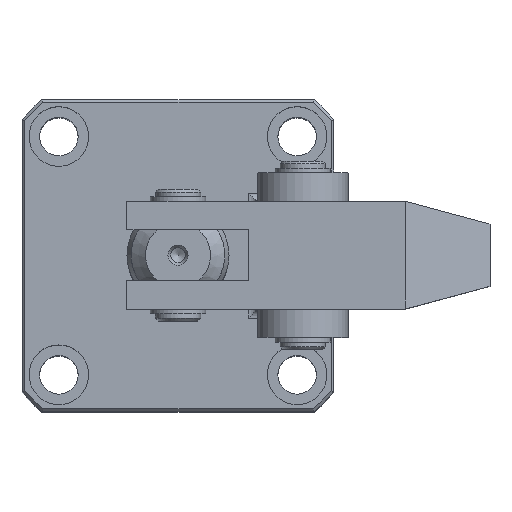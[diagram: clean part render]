
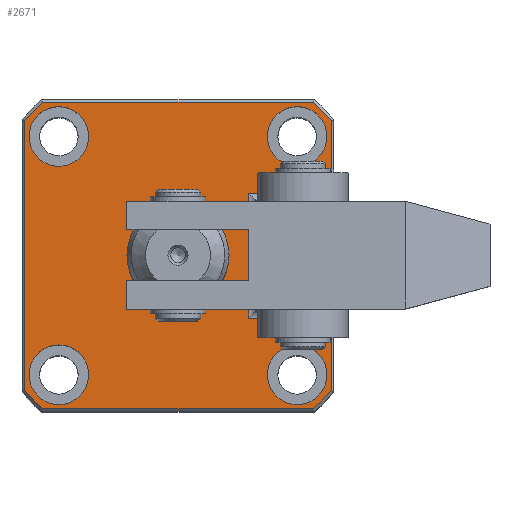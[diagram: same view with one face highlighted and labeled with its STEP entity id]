
A CAD part, top view. The second image highlights one B-rep face of the part: STEP entity #2671.
In plain terms, the highlighted planar face has unit normal (0, 0, 1).
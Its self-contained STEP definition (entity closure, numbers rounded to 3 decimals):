
#146=CIRCLE('',#2944,5.25);
#147=CIRCLE('',#2945,5.25);
#148=CIRCLE('',#2946,5.25);
#149=CIRCLE('',#2947,5.25);
#150=CIRCLE('',#2948,9.);
#151=CIRCLE('',#2949,36.);
#152=CIRCLE('',#2950,36.);
#153=CIRCLE('',#2951,36.);
#154=CIRCLE('',#2952,36.);
#285=PLANE('',#2943);
#387=LINE('',#4199,#555);
#388=LINE('',#4202,#556);
#389=LINE('',#4204,#557);
#390=LINE('',#4208,#558);
#391=LINE('',#4212,#559);
#392=LINE('',#4216,#560);
#393=LINE('',#4220,#561);
#394=LINE('',#4222,#562);
#555=VECTOR('',#3324,1000.);
#556=VECTOR('',#3325,1000.);
#557=VECTOR('',#3326,1000.);
#558=VECTOR('',#3329,1000.);
#559=VECTOR('',#3332,1000.);
#560=VECTOR('',#3335,1000.);
#561=VECTOR('',#3338,1000.);
#562=VECTOR('',#3339,1000.);
#728=ORIENTED_EDGE('',*,*,#1415,.F.);
#729=ORIENTED_EDGE('',*,*,#1416,.F.);
#730=ORIENTED_EDGE('',*,*,#1417,.F.);
#731=ORIENTED_EDGE('',*,*,#1418,.F.);
#732=ORIENTED_EDGE('',*,*,#1419,.T.);
#733=ORIENTED_EDGE('',*,*,#1420,.T.);
#734=ORIENTED_EDGE('',*,*,#1421,.T.);
#735=ORIENTED_EDGE('',*,*,#1422,.T.);
#736=ORIENTED_EDGE('',*,*,#1423,.T.);
#737=ORIENTED_EDGE('',*,*,#1424,.T.);
#738=ORIENTED_EDGE('',*,*,#1425,.T.);
#739=ORIENTED_EDGE('',*,*,#1426,.T.);
#740=ORIENTED_EDGE('',*,*,#1427,.T.);
#741=ORIENTED_EDGE('',*,*,#1428,.T.);
#742=ORIENTED_EDGE('',*,*,#1429,.T.);
#743=ORIENTED_EDGE('',*,*,#1430,.T.);
#744=ORIENTED_EDGE('',*,*,#1431,.T.);
#1415=EDGE_CURVE('',#1758,#1758,#146,.T.);
#1416=EDGE_CURVE('',#1759,#1759,#147,.T.);
#1417=EDGE_CURVE('',#1760,#1760,#148,.T.);
#1418=EDGE_CURVE('',#1761,#1761,#149,.T.);
#1419=EDGE_CURVE('',#1762,#1762,#150,.T.);
#1420=EDGE_CURVE('',#1763,#1764,#387,.T.);
#1421=EDGE_CURVE('',#1764,#1765,#388,.T.);
#1422=EDGE_CURVE('',#1765,#1766,#389,.T.);
#1423=EDGE_CURVE('',#1766,#1767,#151,.T.);
#1424=EDGE_CURVE('',#1767,#1768,#390,.T.);
#1425=EDGE_CURVE('',#1768,#1769,#152,.T.);
#1426=EDGE_CURVE('',#1769,#1770,#391,.T.);
#1427=EDGE_CURVE('',#1770,#1771,#153,.T.);
#1428=EDGE_CURVE('',#1771,#1772,#392,.T.);
#1429=EDGE_CURVE('',#1772,#1773,#154,.T.);
#1430=EDGE_CURVE('',#1773,#1774,#393,.T.);
#1431=EDGE_CURVE('',#1774,#1763,#394,.T.);
#1758=VERTEX_POINT('',#4190);
#1759=VERTEX_POINT('',#4192);
#1760=VERTEX_POINT('',#4194);
#1761=VERTEX_POINT('',#4196);
#1762=VERTEX_POINT('',#4198);
#1763=VERTEX_POINT('',#4200);
#1764=VERTEX_POINT('',#4201);
#1765=VERTEX_POINT('',#4203);
#1766=VERTEX_POINT('',#4205);
#1767=VERTEX_POINT('',#4207);
#1768=VERTEX_POINT('',#4209);
#1769=VERTEX_POINT('',#4211);
#1770=VERTEX_POINT('',#4213);
#1771=VERTEX_POINT('',#4215);
#1772=VERTEX_POINT('',#4217);
#1773=VERTEX_POINT('',#4219);
#1774=VERTEX_POINT('',#4221);
#2016=EDGE_LOOP('',(#728));
#2017=EDGE_LOOP('',(#729));
#2018=EDGE_LOOP('',(#730));
#2019=EDGE_LOOP('',(#731));
#2020=EDGE_LOOP('',(#732));
#2021=EDGE_LOOP('',(#733,#734,#735,#736,#737,#738,#739,#740,#741,#742,#743,
#744));
#2310=FACE_BOUND('',#2016,.T.);
#2311=FACE_BOUND('',#2017,.T.);
#2312=FACE_BOUND('',#2018,.T.);
#2313=FACE_BOUND('',#2019,.T.);
#2314=FACE_BOUND('',#2020,.T.);
#2315=FACE_BOUND('',#2021,.T.);
#2671=ADVANCED_FACE('',(#2310,#2311,#2312,#2313,#2314,#2315),#285,.T.);
#2943=AXIS2_PLACEMENT_3D('',#4188,#3312,#3313);
#2944=AXIS2_PLACEMENT_3D('',#4189,#3314,#3315);
#2945=AXIS2_PLACEMENT_3D('',#4191,#3316,#3317);
#2946=AXIS2_PLACEMENT_3D('',#4193,#3318,#3319);
#2947=AXIS2_PLACEMENT_3D('',#4195,#3320,#3321);
#2948=AXIS2_PLACEMENT_3D('',#4197,#3322,#3323);
#2949=AXIS2_PLACEMENT_3D('',#4206,#3327,#3328);
#2950=AXIS2_PLACEMENT_3D('',#4210,#3330,#3331);
#2951=AXIS2_PLACEMENT_3D('',#4214,#3333,#3334);
#2952=AXIS2_PLACEMENT_3D('',#4218,#3336,#3337);
#3312=DIRECTION('',(0.,0.,1.));
#3313=DIRECTION('',(0.,-1.,0.));
#3314=DIRECTION('',(0.,0.,1.));
#3315=DIRECTION('',(1.,0.,0.));
#3316=DIRECTION('',(0.,0.,1.));
#3317=DIRECTION('',(1.,0.,0.));
#3318=DIRECTION('',(0.,0.,1.));
#3319=DIRECTION('',(1.,0.,0.));
#3320=DIRECTION('',(0.,0.,1.));
#3321=DIRECTION('',(1.,0.,0.));
#3322=DIRECTION('',(0.,0.,-1.));
#3323=DIRECTION('',(0.,-1.,0.));
#3324=DIRECTION('',(0.,1.,0.));
#3325=DIRECTION('',(1.,0.,0.));
#3326=DIRECTION('',(0.,1.,0.));
#3327=DIRECTION('',(0.,0.,1.));
#3328=DIRECTION('',(0.,-1.,0.));
#3329=DIRECTION('',(-1.,0.,0.));
#3330=DIRECTION('',(0.,0.,1.));
#3331=DIRECTION('',(0.,-1.,0.));
#3332=DIRECTION('',(0.,-1.,0.));
#3333=DIRECTION('',(0.,0.,1.));
#3334=DIRECTION('',(0.,-1.,0.));
#3335=DIRECTION('',(1.,0.,0.));
#3336=DIRECTION('',(0.,0.,1.));
#3337=DIRECTION('',(0.,-1.,0.));
#3338=DIRECTION('',(0.,1.,0.));
#3339=DIRECTION('',(-1.,0.,0.));
#4188=CARTESIAN_POINT('',(0.,0.,76.));
#4189=CARTESIAN_POINT('',(-21.,21.,76.));
#4190=CARTESIAN_POINT('',(-15.75,21.,76.));
#4191=CARTESIAN_POINT('',(21.,21.,76.));
#4192=CARTESIAN_POINT('',(26.25,21.,76.));
#4193=CARTESIAN_POINT('',(21.,-21.,76.));
#4194=CARTESIAN_POINT('',(26.25,-21.,76.));
#4195=CARTESIAN_POINT('',(-21.,-21.,76.));
#4196=CARTESIAN_POINT('',(-15.75,-21.,76.));
#4197=CARTESIAN_POINT('',(0.,0.,76.));
#4198=CARTESIAN_POINT('',(0.,-9.,76.));
#4199=CARTESIAN_POINT('',(12.5,9.5,76.));
#4200=CARTESIAN_POINT('',(12.5,-11.,76.));
#4201=CARTESIAN_POINT('',(12.5,11.,76.));
#4202=CARTESIAN_POINT('',(27.,11.,76.));
#4203=CARTESIAN_POINT('',(27.,11.,76.));
#4204=CARTESIAN_POINT('',(27.,0.,76.));
#4205=CARTESIAN_POINT('',(27.,23.812,76.));
#4206=CARTESIAN_POINT('',(0.,0.,76.));
#4207=CARTESIAN_POINT('',(23.812,27.,76.));
#4208=CARTESIAN_POINT('',(0.,27.,76.));
#4209=CARTESIAN_POINT('',(-23.812,27.,76.));
#4210=CARTESIAN_POINT('',(0.,0.,76.));
#4211=CARTESIAN_POINT('',(-27.,23.812,76.));
#4212=CARTESIAN_POINT('',(-27.,0.,76.));
#4213=CARTESIAN_POINT('',(-27.,-23.812,76.));
#4214=CARTESIAN_POINT('',(0.,0.,76.));
#4215=CARTESIAN_POINT('',(-23.812,-27.,76.));
#4216=CARTESIAN_POINT('',(0.,-27.,76.));
#4217=CARTESIAN_POINT('',(23.812,-27.,76.));
#4218=CARTESIAN_POINT('',(0.,0.,76.));
#4219=CARTESIAN_POINT('',(27.,-23.812,76.));
#4220=CARTESIAN_POINT('',(27.,0.,76.));
#4221=CARTESIAN_POINT('',(27.,-11.,76.));
#4222=CARTESIAN_POINT('',(0.,-11.,76.));
